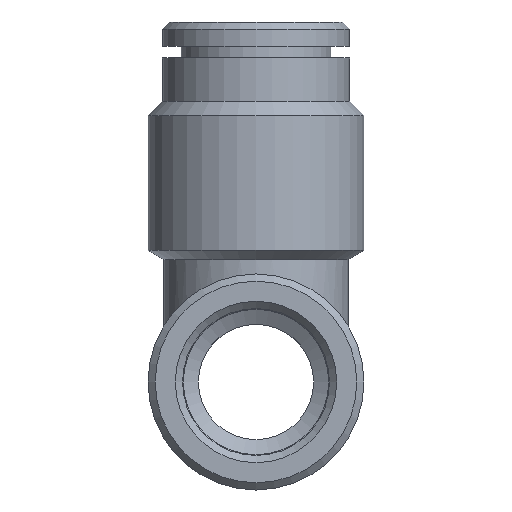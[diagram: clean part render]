
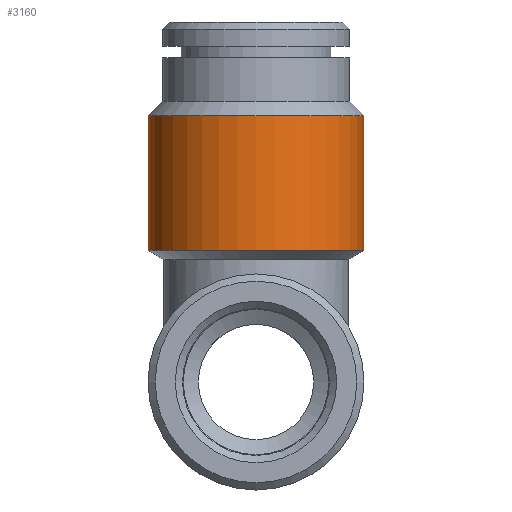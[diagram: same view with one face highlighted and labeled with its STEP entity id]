
A CAD part, left-side view. The second image highlights one B-rep face of the part: STEP entity #3160.
In plain terms, the highlighted cylindrical face has radius 7.5 mm (diameter 15 mm), a full revolution.
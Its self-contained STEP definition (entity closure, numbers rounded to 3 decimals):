
#3160=ADVANCED_FACE('', (#3170,#3180), #3190, .T.);
#9470=AXIS2_PLACEMENT_3D('Ax2Pl3d', #9480, #9490, #9500);
#9550=AXIS2_PLACEMENT_3D('Ax2Pl3d', #9560, #9570, #9580);
#9590=AXIS2_PLACEMENT_3D('Ax2Pl3d', #9600, #9610, #9620);
#9480=CARTESIAN_POINT('HicPkt', (27.086,9.869,
28.026));
#17630=CARTESIAN_POINT('', (19.586,9.869,28.026));
#9560=CARTESIAN_POINT('HicPkt', (27.086,9.869,
18.661));
#9600=CARTESIAN_POINT('HicPkt', (27.086,9.869,
18.661));
#17640=CARTESIAN_POINT('', (19.586,9.869,18.661));
#18380=CIRCLE('Circle', #9470, 7.5);
#18390=CIRCLE('Circle', #9590, 7.5);
#3190=CYLINDRICAL_SURFACE('Zyl', #9550, 7.5);
#9490=DIRECTION('Axis', (0.,0.,-1.));
#9500=DIRECTION('RefDirection', (-1.,-0.,0.));
#9570=DIRECTION('Axis', (0.,0.,1.));
#9580=DIRECTION('RefDirection', (1.,0.,-0.));
#9610=DIRECTION('Axis', (0.,0.,-1.));
#9620=DIRECTION('RefDirection', (-1.,-0.,0.));
#22460=EDGE_CURVE('', #22470, #22470, #18380, .T.);
#22480=EDGE_CURVE('', #22490, #22490, #18390, .T.);
#25520=EDGE_LOOP('Edge_loop', (#25530));
#25540=EDGE_LOOP('Edge_loop', (#25550));
#3180=FACE_BOUND('', #25540, .T.);
#3170=FACE_OUTER_BOUND('Face_outer_bound', #25520, .T.);
#25530=ORIENTED_EDGE('', *, *, #22460, .T.);
#25550=ORIENTED_EDGE('', *, *, #22480, .F.);
#22470=VERTEX_POINT('', #17630);
#22490=VERTEX_POINT('', #17640);
